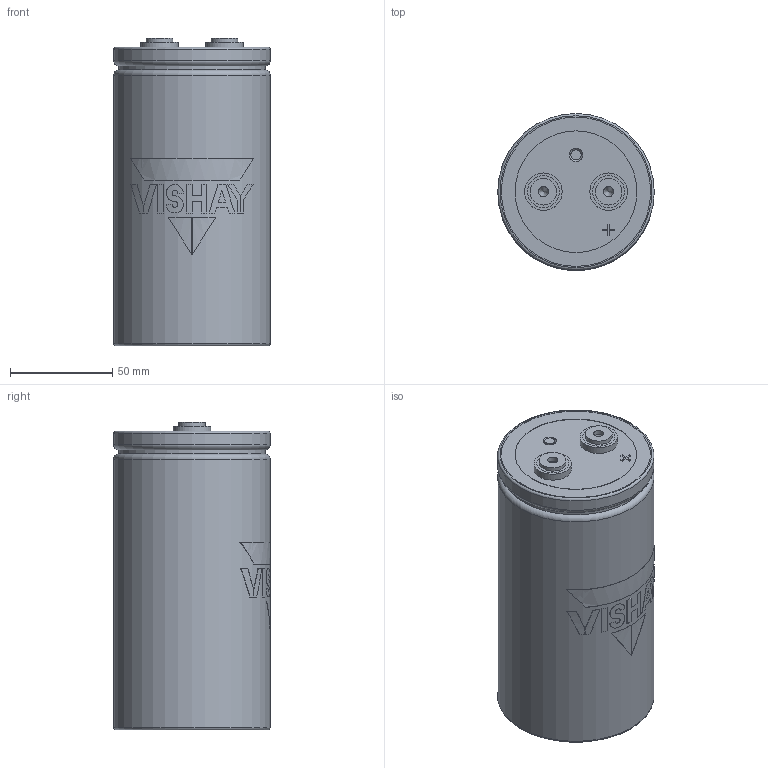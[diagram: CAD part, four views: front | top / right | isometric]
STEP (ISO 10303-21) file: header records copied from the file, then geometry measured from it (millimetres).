
FILE_DESCRIPTION(('FreeCAD Model'),'2;1');
FILE_NAME('C:/Users/tvandesteeg/Documents/Documents/FreeCAD/Stepfiles/ST capacitors/ST_LP_M6_76x146.step','2020-07-02T18:08:22',('Author'),(''), 'Open CASCADE STEP processor 7.3','FreeCAD','Unknown');
FILE_SCHEMA(('AUTOMOTIVE_DESIGN { 1 0 10303 214 1 1 1 1 }'));
Length unit declared in the file: millimetre
Products named in the file (7): VentBody; TerminalBody_(Mirror_#2); TerminalBody; Disc; LogoPrint; CanBody; BottomBody
Bounding box: 76.4 x 76.5 x 150.2 mm (x, y, z)
Volume: 664057.3 mm3; surface area: 70811.5 mm2
Topology: 17 solids, 17 shells, 149 faces, 313 edges, 206 vertices
Faces by surface type: plane 93, cylinder 48, torus 5, cone 3
Full cylindrical faces by diameter (mm): 5 x4, 13 x2, 15.65 x6, 18.3 x2, 59.422 x3, 71.4 x1, 72 x2, 76.4 x2
Entity records: 10653 total; most frequent: CARTESIAN_POINT 3357, DIRECTION 1204, ORIENTED_EDGE 622, PCURVE 622, DEFINITIONAL_REPRESENTATION 622, LINE 532, VECTOR 532, EDGE_CURVE 311
